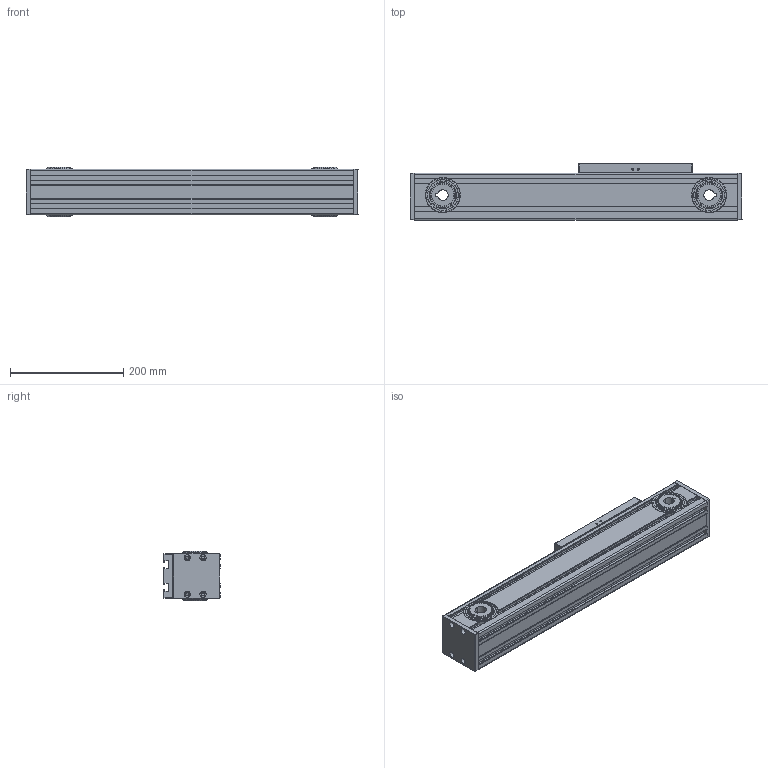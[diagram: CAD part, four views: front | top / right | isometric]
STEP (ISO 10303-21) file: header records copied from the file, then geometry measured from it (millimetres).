
FILE_DESCRIPTION (( 'STEP AP214' ), '1' );
FILE_NAME ('TKR80-200A1-F0-R3-高速内滚轮直线模组.step', '2025-10-10T03:25:45', ( '' ), ( '' ), 'SwSTEP 2.0', 'SolidWorks 2024', '' );
FILE_SCHEMA (( 'AUTOMOTIVE_DESIGN' ));
Length unit declared in the file: millimetre
Products named in the file (3): TKR80-R3-02; TKR80-200-R3-01; TKR80-200A1-F0-R3-高速内滚轮直线模组
Assembly tree (2 placements, depth 2):
  TKR80-200A1-F0-R3-高速内滚轮直线模组
    TKR80-200-R3-01
    TKR80-R3-02
Bounding box: 586 x 100 x 87 mm (x, y, z)
Volume: 1896791.9 mm3; surface area: 765467.6 mm2
Topology: 1 solids, 52 shells, 2499 faces, 6775 edges, 4338 vertices
Faces by surface type: cylinder 1279, plane 770, torus 244, cone 182, sphere 24
Entity records: 120687 total; most frequent: CARTESIAN_POINT 31465, ORIENTED_EDGE 13382, DIRECTION 13179, EDGE_CURVE 6731, AXIS2_PLACEMENT_3D 5137, VERTEX_POINT 4338, LINE 2905, VECTOR 2905
